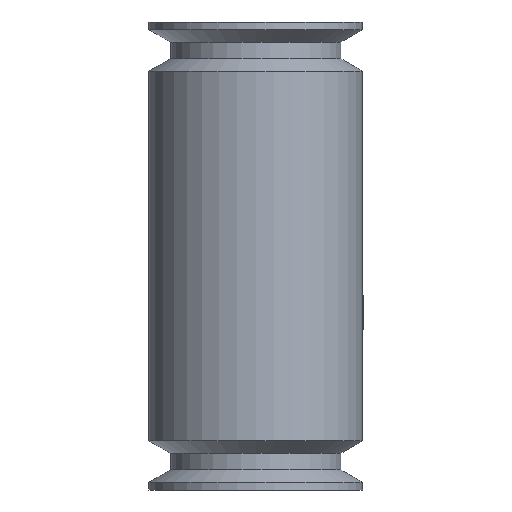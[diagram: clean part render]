
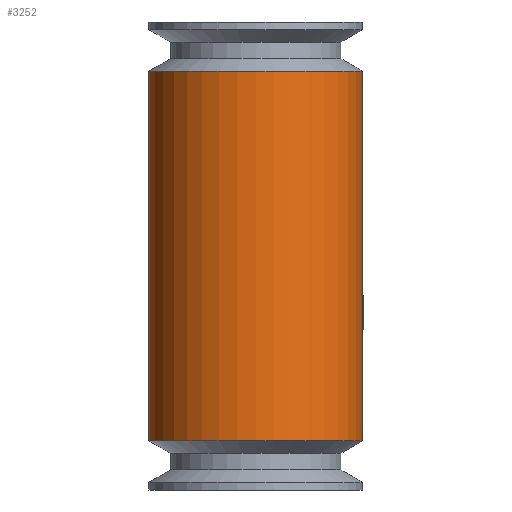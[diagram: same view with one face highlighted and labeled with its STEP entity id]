
A CAD part, front view. The second image highlights one B-rep face of the part: STEP entity #3252.
In plain terms, the highlighted cylindrical face has radius 32 mm (diameter 64 mm), a full revolution.
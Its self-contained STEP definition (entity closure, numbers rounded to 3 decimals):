
#2064=CYLINDRICAL_SURFACE('',#9008,32.);
#2242=B_SPLINE_CURVE_WITH_KNOTS('',3,(#12112,#12113,#12114,#12115),
 .UNSPECIFIED.,.F.,.F.,(4,4),(0.,1.),.UNSPECIFIED.);
#2243=B_SPLINE_CURVE_WITH_KNOTS('',3,(#12117,#12118,#12119,#12120,#12121,
#12122),.UNSPECIFIED.,.F.,.F.,(4,2,4),(0.,0.5,1.),.UNSPECIFIED.);
#2244=B_SPLINE_CURVE_WITH_KNOTS('',3,(#12124,#12125,#12126,#12127),
 .UNSPECIFIED.,.F.,.F.,(4,4),(0.,1.),.UNSPECIFIED.);
#2245=B_SPLINE_CURVE_WITH_KNOTS('',3,(#12128,#12129,#12130,#12131),
 .UNSPECIFIED.,.F.,.F.,(4,4),(0.,1.),.UNSPECIFIED.);
#2246=B_SPLINE_CURVE_WITH_KNOTS('',3,(#12133,#12134,#12135,#12136,#12137,
#12138),.UNSPECIFIED.,.F.,.F.,(4,2,4),(0.,0.5,1.),.UNSPECIFIED.);
#2247=B_SPLINE_CURVE_WITH_KNOTS('',3,(#12140,#12141,#12142,#12143),
 .UNSPECIFIED.,.F.,.F.,(4,4),(0.,1.),.UNSPECIFIED.);
#2428=LINE('',#12099,#2838);
#2429=LINE('',#12104,#2839);
#2838=VECTOR('',#9918,1.);
#2839=VECTOR('',#9921,1.);
#3252=ADVANCED_FACE('',(#3889,#3890,#3891),#2064,.T.);
#3889=FACE_BOUND('',#4112,.T.);
#3890=FACE_BOUND('',#4113,.T.);
#3891=FACE_BOUND('',#4114,.T.);
#4112=EDGE_LOOP('',(#4725));
#4113=EDGE_LOOP('',(#4726));
#4114=EDGE_LOOP('',(#4727,#4728,#4729,#4730,#4731,#4732,#4733,#4734));
#4725=ORIENTED_EDGE('',*,*,#7513,.T.);
#4726=ORIENTED_EDGE('',*,*,#7514,.T.);
#4727=ORIENTED_EDGE('',*,*,#7511,.T.);
#4728=ORIENTED_EDGE('',*,*,#7515,.T.);
#4729=ORIENTED_EDGE('',*,*,#7516,.T.);
#4730=ORIENTED_EDGE('',*,*,#7517,.T.);
#4731=ORIENTED_EDGE('',*,*,#7509,.T.);
#4732=ORIENTED_EDGE('',*,*,#7518,.T.);
#4733=ORIENTED_EDGE('',*,*,#7519,.T.);
#4734=ORIENTED_EDGE('',*,*,#7520,.T.);
#6815=VERTEX_POINT('',#12100);
#6816=VERTEX_POINT('',#12101);
#6817=VERTEX_POINT('',#12103);
#6818=VERTEX_POINT('',#12105);
#6819=VERTEX_POINT('',#12109);
#6820=VERTEX_POINT('',#12111);
#6821=VERTEX_POINT('',#12116);
#6822=VERTEX_POINT('',#12123);
#6823=VERTEX_POINT('',#12132);
#6824=VERTEX_POINT('',#12139);
#7509=EDGE_CURVE('',#6815,#6816,#2428,.T.);
#7511=EDGE_CURVE('',#6818,#6817,#2429,.T.);
#7513=EDGE_CURVE('',#6819,#6819,#8556,.T.);
#7514=EDGE_CURVE('',#6820,#6820,#8557,.T.);
#7515=EDGE_CURVE('',#6817,#6821,#2242,.T.);
#7516=EDGE_CURVE('',#6821,#6822,#2243,.T.);
#7517=EDGE_CURVE('',#6822,#6815,#2244,.T.);
#7518=EDGE_CURVE('',#6816,#6823,#2245,.T.);
#7519=EDGE_CURVE('',#6823,#6824,#2246,.T.);
#7520=EDGE_CURVE('',#6824,#6818,#2247,.T.);
#8556=CIRCLE('',#9006,32.);
#8557=CIRCLE('',#9007,32.);
#9006=AXIS2_PLACEMENT_3D('',#12108,#9926,#9927);
#9007=AXIS2_PLACEMENT_3D('',#12110,#9928,#9929);
#9008=AXIS2_PLACEMENT_3D('',#12144,#9930,#9931);
#9918=DIRECTION('',(0.,0.,-1.));
#9921=DIRECTION('',(0.,0.,1.));
#9926=DIRECTION('',(0.,0.,1.));
#9927=DIRECTION('',(1.,0.,0.));
#9928=DIRECTION('',(0.,0.,-1.));
#9929=DIRECTION('',(1.,0.,0.));
#9930=DIRECTION('',(0.,0.,1.));
#9931=DIRECTION('',(-1.,0.,0.));
#12099=CARTESIAN_POINT('',(-7.937,31.,-132.));
#12100=CARTESIAN_POINT('',(-7.937,31.,-9.986));
#12101=CARTESIAN_POINT('',(-7.937,31.,-28.014));
#12103=CARTESIAN_POINT('',(7.937,31.,-10.014));
#12104=CARTESIAN_POINT('',(7.937,31.,-132.));
#12105=CARTESIAN_POINT('',(7.937,31.,-27.986));
#12108=CARTESIAN_POINT('',(0.,0.,-57.247));
#12109=CARTESIAN_POINT('',(32.,0.,-57.247));
#12110=CARTESIAN_POINT('',(0.,0.,53.247));
#12111=CARTESIAN_POINT('',(32.,0.,53.247));
#12112=CARTESIAN_POINT('',(7.937,31.,-10.014));
#12113=CARTESIAN_POINT('',(7.266,31.172,-9.191));
#12114=CARTESIAN_POINT('',(6.504,31.344,-8.465));
#12115=CARTESIAN_POINT('',(5.635,31.5,-7.85));
#12116=CARTESIAN_POINT('',(5.635,31.5,-7.85));
#12117=CARTESIAN_POINT('',(5.635,31.5,-7.85));
#12118=CARTESIAN_POINT('',(3.895,31.811,-6.968));
#12119=CARTESIAN_POINT('',(1.951,32.,-6.503));
#12120=CARTESIAN_POINT('',(-1.943,32.,-6.497));
#12121=CARTESIAN_POINT('',(-3.893,31.812,-6.957));
#12122=CARTESIAN_POINT('',(-5.635,31.5,-7.834));
#12123=CARTESIAN_POINT('',(-5.635,31.5,-7.834));
#12124=CARTESIAN_POINT('',(-5.635,31.5,-7.834));
#12125=CARTESIAN_POINT('',(-6.504,31.345,-8.446));
#12126=CARTESIAN_POINT('',(-7.266,31.172,-9.167));
#12127=CARTESIAN_POINT('',(-7.937,31.,-9.986));
#12128=CARTESIAN_POINT('',(-7.937,31.,-28.014));
#12129=CARTESIAN_POINT('',(-7.266,31.172,-28.833));
#12130=CARTESIAN_POINT('',(-6.504,31.345,-29.554));
#12131=CARTESIAN_POINT('',(-5.635,31.5,-30.166));
#12132=CARTESIAN_POINT('',(-5.635,31.5,-30.166));
#12133=CARTESIAN_POINT('',(-5.635,31.5,-30.166));
#12134=CARTESIAN_POINT('',(-3.893,31.812,-31.042));
#12135=CARTESIAN_POINT('',(-1.947,32.,-31.502));
#12136=CARTESIAN_POINT('',(1.947,32.,-31.498));
#12137=CARTESIAN_POINT('',(3.895,31.811,-31.032));
#12138=CARTESIAN_POINT('',(5.635,31.5,-30.15));
#12139=CARTESIAN_POINT('',(5.635,31.5,-30.15));
#12140=CARTESIAN_POINT('',(5.635,31.5,-30.15));
#12141=CARTESIAN_POINT('',(6.504,31.344,-29.535));
#12142=CARTESIAN_POINT('',(7.266,31.172,-28.809));
#12143=CARTESIAN_POINT('',(7.937,31.,-27.986));
#12144=CARTESIAN_POINT('',(0.,0.,-132.));
